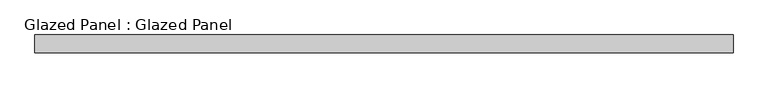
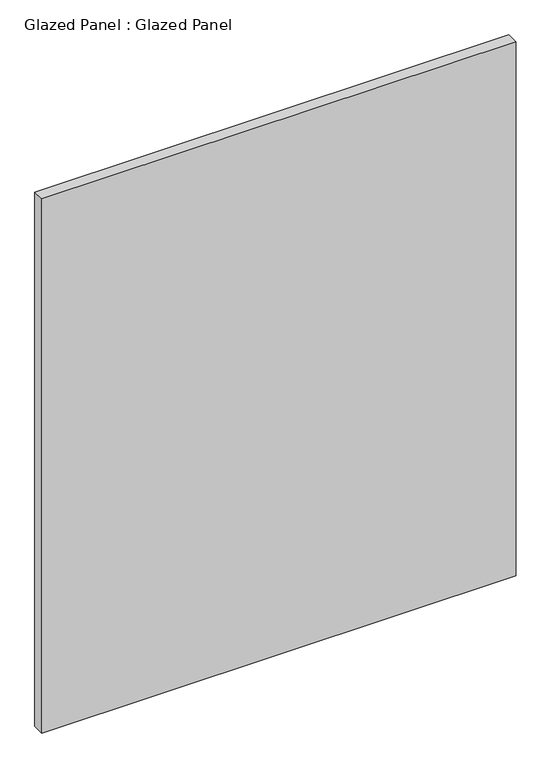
"""IFC4 building model written with IfcOpenShell, lengths in millimetres: plate geometry, Glazed Panel : Glazed Panel."""

from ifc_helpers import new_model, si_unit, origin, origin_with_axes, place, context, project, spatial, polyline, outline, extrude, source, transform, mapped, element, save


def glazed_panel_glazed_panel_41280a37(model_context):
    return source(origin(), model_context, "Body", "SweptSolid", [
        extrude(outline(polyline([(498.7728003, 38.1), (-498.7728003, 38.1), (-498.7728003, 63.5), (498.7728003, 63.5), (498.7728003, 38.1)])), origin_with_axes(), (0.0, 0.0, 1.0), 1187.45),
    ])


if __name__ == "__main__":
    model = new_model("IFC4")
    model_context = context("Model", 3, world=origin())
    ifc_project = project(units=[si_unit("LENGTHUNIT", "METRE", prefix="MILLI")], contexts=[model_context])
    site = spatial("IfcSite", under=ifc_project)
    building = spatial("IfcBuilding", under=site)
    placement = place(None, origin())
    glazed_panel_glazed_panel_shape = glazed_panel_glazed_panel_41280a37(model_context)
    element("IfcPlate", 1, ObjectType="Glazed Panel : Glazed Panel", at=placement, inside=building, context=model_context, shape_type="MappedRepresentation", body=[
        mapped(glazed_panel_glazed_panel_shape, transform((0.0, 0.0, 0.0), x_axis=(1.0, 0.0, 0.0), y_axis=(0.0, 1.0, 0.0), z_axis=(0.0, 0.0, 1.0))),
    ])
    save(model, "model.ifc")
